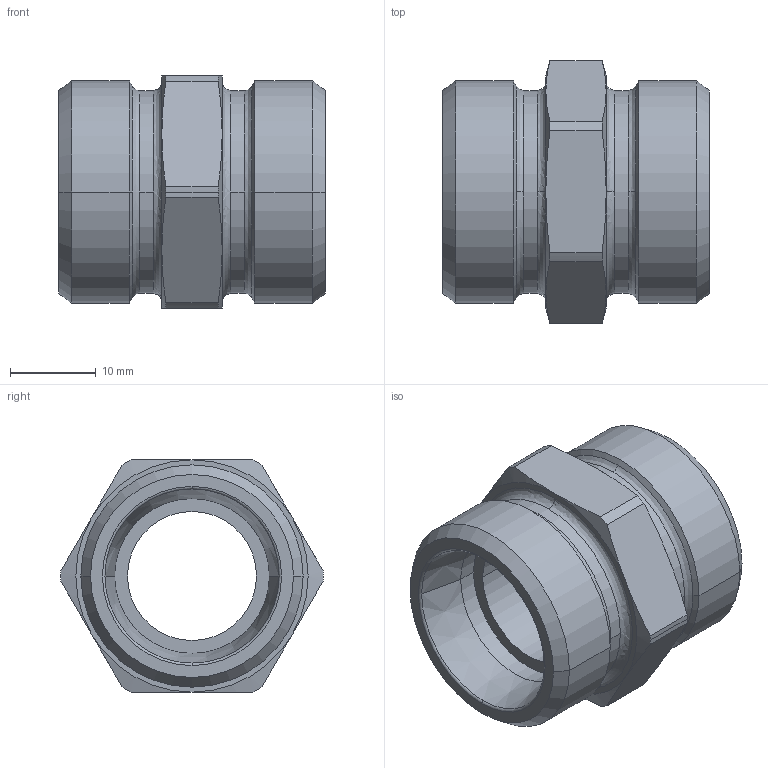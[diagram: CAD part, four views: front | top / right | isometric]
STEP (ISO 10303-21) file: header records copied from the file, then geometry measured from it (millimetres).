
FILE_DESCRIPTION((''),'2;1');
FILE_NAME('103509.stp','2007-10-31T11:34:14',(''),(''),'AutoCAD STEP 2000i','AutoCAD 2000i',', , ');
FILE_SCHEMA(('CONFIG_CONTROL_DESIGN'));
Length unit declared in the file: millimetre
Products named in the file (2): 103509.0; CHIAVE SMUSSATA#0
Assembly tree (1 placements, depth 2):
  103509.0
    CHIAVE SMUSSATA#0
Bounding box: 31 x 30.5 x 27 mm (x, y, z)
Volume: 9235.2 mm3; surface area: 5003.4 mm2
Topology: 1 solids, 1 shells, 70 faces, 172 edges, 108 vertices
Faces by surface type: cone 24, cylinder 22, plane 12, bspline 8, torus 4
Entity records: 2513 total; most frequent: CARTESIAN_POINT 752, DIRECTION 384, ORIENTED_EDGE 344, AXIS2_PLACEMENT_3D 172, EDGE_CURVE 172, VERTEX_POINT 108, CIRCLE 108, EDGE_LOOP 76
